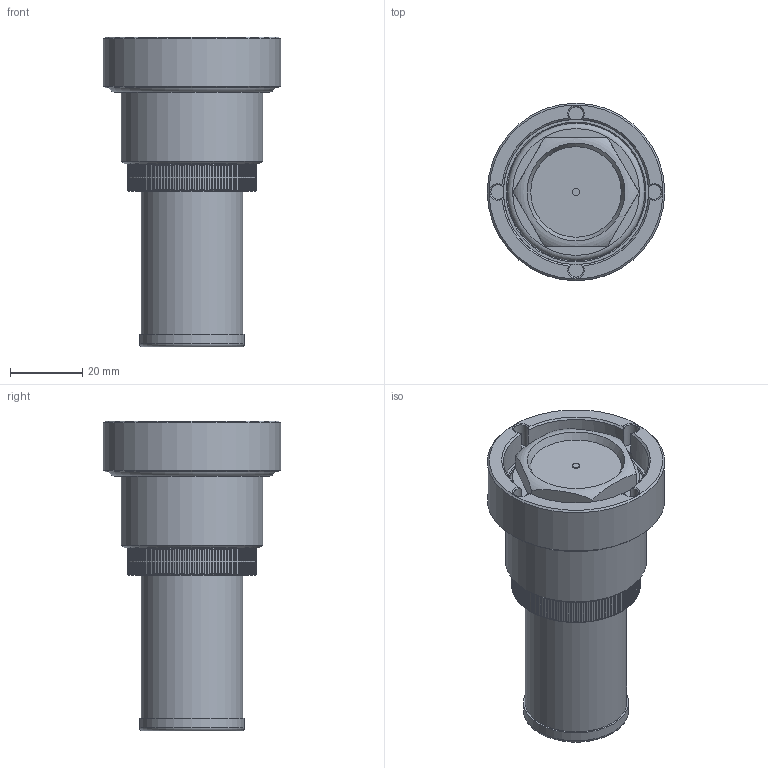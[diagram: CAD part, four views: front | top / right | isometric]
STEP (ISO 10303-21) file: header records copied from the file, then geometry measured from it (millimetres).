
FILE_DESCRIPTION(/* description */ (''),/* implementation_level */ '2;1');
FILE_NAME(/* name */ 'D:\YandexDisk\Project\Абсорбер сменный\TL.0185 Абсорбер сменный.stp',/* time_stamp */ '2026-02-17T23:06:16+03:00',/* author */ ('znnsp'),/* organization */ (''),/* preprocessor_version */ 'ST-DEVELOPER v18.1',/* originating_system */ 'Autodesk Inventor 2021',/* authorisation */ '');
FILE_SCHEMA (('AUTOMOTIVE_DESIGN { 1 0 10303 214 3 1 1 }'));
Length unit declared in the file: millimetre
Products named in the file (6): TL.0184 Абсорбер сменный; TL.0184-001 Основа; Сеточка-фильтр 
для обр клапана 
3; 040-046-36; 032-037-030; K0445.135034 Маслоуказатель 
резьбовой
Assembly tree (5 placements, depth 2):
  TL.0184 Абсорбер сменный
    TL.0184-001 Основа
    Сеточка-фильтр 
для обр клапана 
3
    040-046-36
    032-037-030
    K0445.135034 Маслоуказатель 
резьбовой
Bounding box: 49 x 49 x 85.5 mm (x, y, z)
Volume: 43062.9 mm3; surface area: 31411.4 mm2
Topology: 5 solids, 5 shells, 334 faces, 1170 edges, 856 vertices
Faces by surface type: cylinder 267, plane 42, cone 18, torus 7
Full cylindrical faces by diameter (mm): 2 x1, 20 x1, 20.5 x1, 24.6 x1, 24.66 x1, 26.44 x2, 27.4 x1, 28 x1, 29 x1, 31.6 x1, 35 x1, 38 x1, 39 x1, 40.1 x1, 46.3 x1, 49 x1
Entity records: 18430 total; most frequent: CARTESIAN_POINT 9017, ORIENTED_EDGE 2340, DIRECTION 1217, EDGE_CURVE 1170, VERTEX_POINT 856, B_SPLINE_CURVE_WITH_KNOTS 745, AXIS2_PLACEMENT_3D 447, EDGE_LOOP 350
